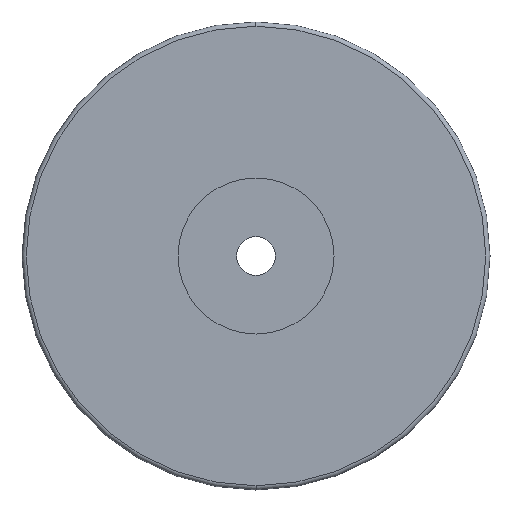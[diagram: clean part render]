
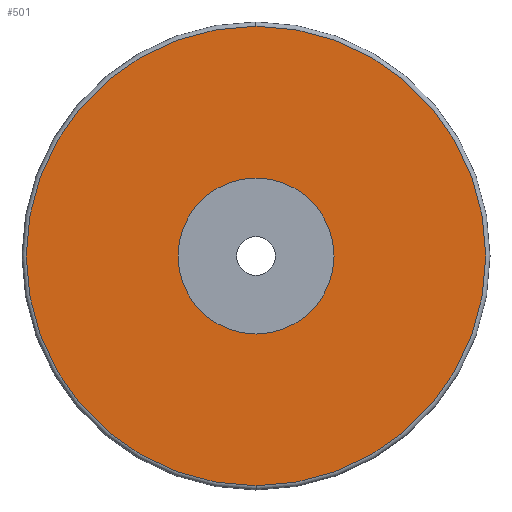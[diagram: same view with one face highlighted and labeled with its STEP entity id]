
A CAD part, left-side view. The second image highlights one B-rep face of the part: STEP entity #501.
In plain terms, the highlighted planar face has unit normal (-1, 0, 0).
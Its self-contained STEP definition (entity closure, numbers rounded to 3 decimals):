
#5 = CIRCLE ( 'NONE', #185, 32.4 ) ;
#11 = AXIS2_PLACEMENT_3D ( 'NONE', #441, #100, #320 ) ;
#24 = CARTESIAN_POINT ( 'NONE',  ( 0., 0., 0. ) ) ;
#29 = DIRECTION ( 'NONE',  ( 0., 0., 1. ) ) ;
#32 = PLANE ( 'NONE',  #424 ) ;
#60 = FACE_OUTER_BOUND ( 'NONE', #334, .T. ) ;
#76 = CARTESIAN_POINT ( 'NONE',  ( 0., 0., -32.4 ) ) ;
#88 = DIRECTION ( 'NONE',  ( 1., 0., 0. ) ) ;
#100 = DIRECTION ( 'NONE',  ( -1., 0., 0. ) ) ;
#174 = EDGE_LOOP ( 'NONE', ( #282, #654 ) ) ;
#178 = ORIENTED_EDGE ( 'NONE', *, *, #237, .T. ) ;
#185 = AXIS2_PLACEMENT_3D ( 'NONE', #24, #628, #356 ) ;
#212 = AXIS2_PLACEMENT_3D ( 'NONE', #380, #593, #376 ) ;
#231 = ORIENTED_EDGE ( 'NONE', *, *, #633, .T. ) ;
#237 = EDGE_CURVE ( 'NONE', #342, #436, #5, .T. ) ;
#282 = ORIENTED_EDGE ( 'NONE', *, *, #568, .F. ) ;
#290 = VERTEX_POINT ( 'NONE', #584 ) ;
#320 = DIRECTION ( 'NONE',  ( 0., 0., 1. ) ) ;
#334 = EDGE_LOOP ( 'NONE', ( #178, #231 ) ) ;
#342 = VERTEX_POINT ( 'NONE', #76 ) ;
#347 = CIRCLE ( 'NONE', #11, 11. ) ;
#356 = DIRECTION ( 'NONE',  ( 0., 0., -1. ) ) ;
#376 = DIRECTION ( 'NONE',  ( 0., 0., -1. ) ) ;
#380 = CARTESIAN_POINT ( 'NONE',  ( 0., 0., 0. ) ) ;
#384 = CARTESIAN_POINT ( 'NONE',  ( 0., 0., 32.4 ) ) ;
#395 = CIRCLE ( 'NONE', #212, 32.4 ) ;
#409 = FACE_BOUND ( 'NONE', #174, .T. ) ;
#418 = CARTESIAN_POINT ( 'NONE',  ( 0., 11., 0. ) ) ;
#424 = AXIS2_PLACEMENT_3D ( 'NONE', #418, #88, #481 ) ;
#436 = VERTEX_POINT ( 'NONE', #384 ) ;
#441 = CARTESIAN_POINT ( 'NONE',  ( 0., 0., 0. ) ) ;
#457 = CIRCLE ( 'NONE', #699, 11. ) ;
#468 = DIRECTION ( 'NONE',  ( -1., 0., 0. ) ) ;
#481 = DIRECTION ( 'NONE',  ( 0., 0., -1. ) ) ;
#498 = EDGE_CURVE ( 'NONE', #290, #646, #347, .T. ) ;
#501 = ADVANCED_FACE ( 'NONE', ( #60, #409 ), #32, .F. ) ;
#568 = EDGE_CURVE ( 'NONE', #646, #290, #457, .T. ) ;
#578 = CARTESIAN_POINT ( 'NONE',  ( 0., 0., 0. ) ) ;
#584 = CARTESIAN_POINT ( 'NONE',  ( 0., 0., -11. ) ) ;
#593 = DIRECTION ( 'NONE',  ( -1., 0., 0. ) ) ;
#628 = DIRECTION ( 'NONE',  ( -1., 0., 0. ) ) ;
#633 = EDGE_CURVE ( 'NONE', #436, #342, #395, .T. ) ;
#638 = CARTESIAN_POINT ( 'NONE',  ( 0., 0., 11. ) ) ;
#646 = VERTEX_POINT ( 'NONE', #638 ) ;
#654 = ORIENTED_EDGE ( 'NONE', *, *, #498, .F. ) ;
#699 = AXIS2_PLACEMENT_3D ( 'NONE', #578, #468, #29 ) ;
